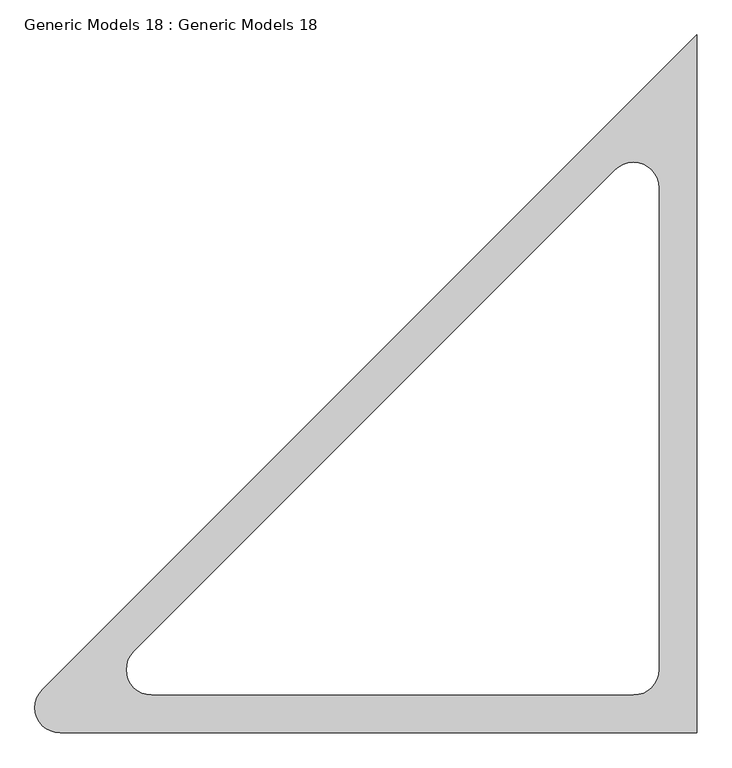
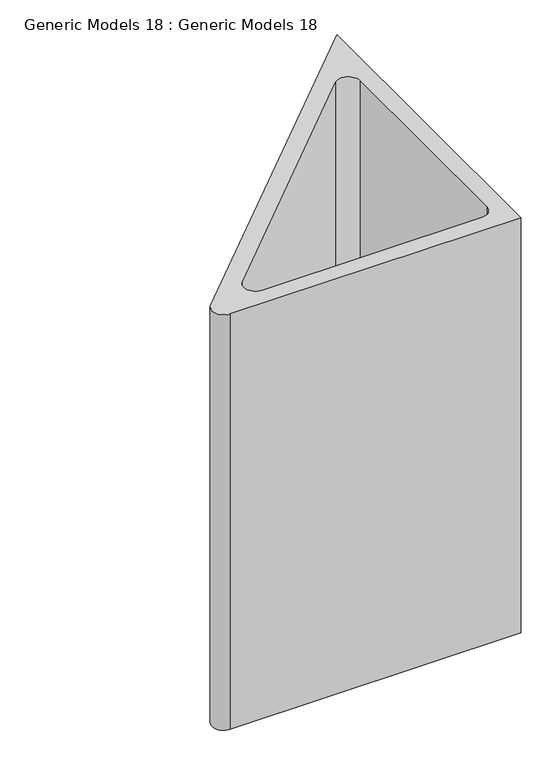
"""IFC4 building model written with IfcOpenShell, lengths in millimetres: proxy geometry, Generic Models 18 : Generic Models 18."""

from ifc_helpers import new_model, si_unit, point, frame, frame_2d, origin, place, context, project, spatial, polyline, circle_curve, trimmed, segment, composite_curve, outline, extrude, source, transform, mapped, element, save


def generic_models_18_generic_models_18_6fc75e98(model_context):
    return source(origin(), model_context, "Body", "SweptSolid", [
        extrude(outline(composite_curve([segment(polyline([(-0.0001061, 2757.7164466), (-0.0001061, 0.0), (-2516.2951964, 0.0)]), True, "CONTINUOUS"), segment(trimmed(circle_curve(frame_2d((-2516.2951964, 100.0)), 100.0), [point((-2516.2951964, 0.0))], [point((-2587.0058746, 170.7106781))], False, "CARTESIAN"), True, "CONTINUOUS"), segment(polyline([(-2587.0058746, 170.7106781), (-0.0001061, 2757.7164466)]), True, "CONTINUOUS")], self_intersect=False), holes=[composite_curve([segment(trimmed(circle_curve(frame_2d((-250.0001061, 250.0)), 100.0), [point((-250.0001061, 150.0))], [point((-150.0001061, 250.0))], True, "CARTESIAN"), True, "CONTINUOUS"), segment(polyline([(-150.0001061, 250.0), (-150.0001061, 2154.163056)]), True, "CONTINUOUS"), segment(trimmed(circle_curve(frame_2d((-250.0001061, 2154.163056)), 100.0), [point((-150.0001061, 2154.163056))], [point((-320.7107842, 2224.8737342))], True, "CARTESIAN"), True, "CONTINUOUS"), segment(polyline([(-320.7107842, 2224.8737342), (-2224.8738402, 320.7106781)]), True, "CONTINUOUS"), segment(trimmed(circle_curve(frame_2d((-2154.1631621, 250.0)), 100.0), [point((-2224.8738402, 320.7106781))], [point((-2154.1631621, 150.0))], True, "CARTESIAN"), True, "CONTINUOUS"), segment(polyline([(-2154.1631621, 150.0), (-250.0001061, 150.0)]), True, "CONTINUOUS")], self_intersect=False)]), frame((0.0, 0.0, -3800.0), z_axis=(0.0, 0.0, 1.0), x_axis=(1.0, 0.0, 0.0)), (0.0, 0.0, 1.0), 3800.0),
    ])


if __name__ == "__main__":
    model = new_model("IFC4")
    model_context = context("Model", 3, world=origin())
    ifc_project = project(units=[si_unit("LENGTHUNIT", "METRE", prefix="MILLI")], contexts=[model_context])
    site = spatial("IfcSite", under=ifc_project)
    building = spatial("IfcBuilding", under=site)
    placement = place(None, origin())
    generic_models_18_generic_models_18_shape = generic_models_18_generic_models_18_6fc75e98(model_context)
    element("IfcBuildingElementProxy", 1, Name="Generic Models 18 : Generic Models 18", ObjectType="Generic Models 18 : Generic Models 18", at=placement, inside=building, context=model_context, shape_type="MappedRepresentation", body=[
        mapped(generic_models_18_generic_models_18_shape, transform((0.0, 0.0, 0.0), x_axis=(1.0, 0.0, 0.0), y_axis=(0.0, 1.0, 0.0), z_axis=(0.0, 0.0, 1.0))),
    ])
    save(model, "model.ifc")
